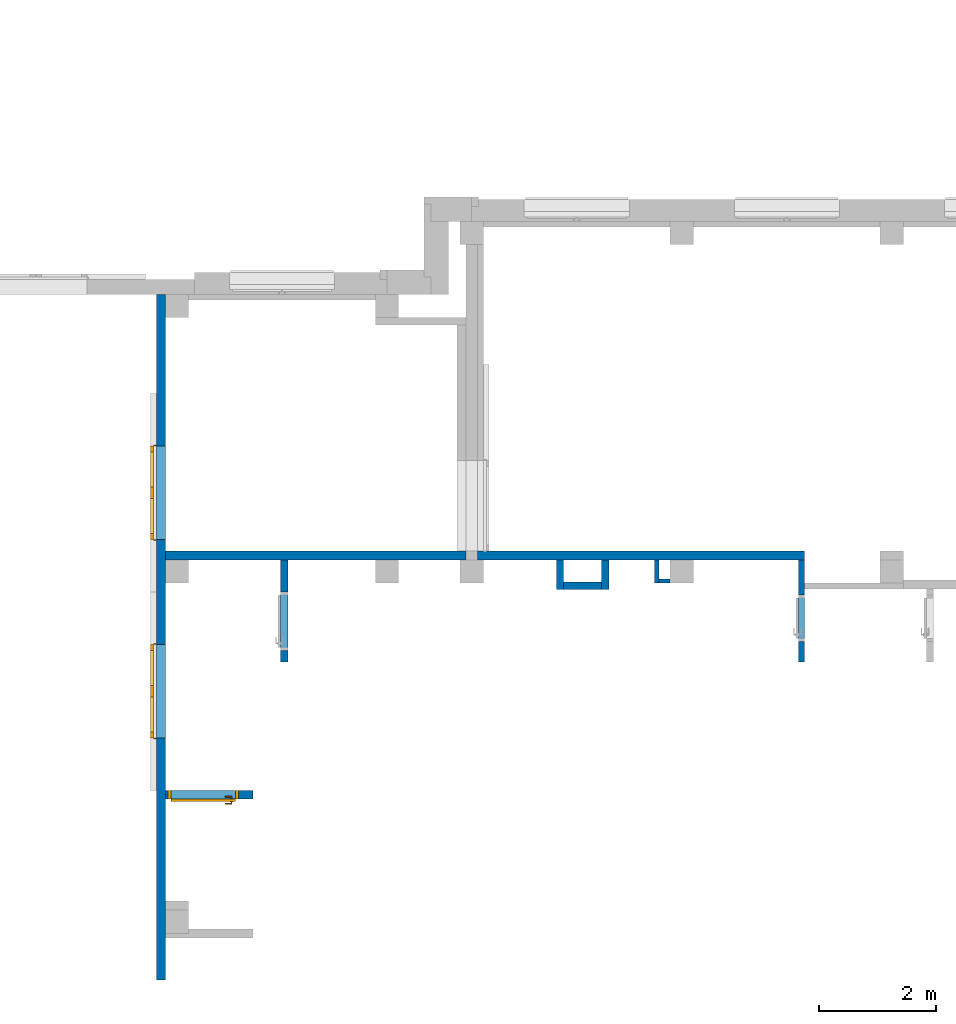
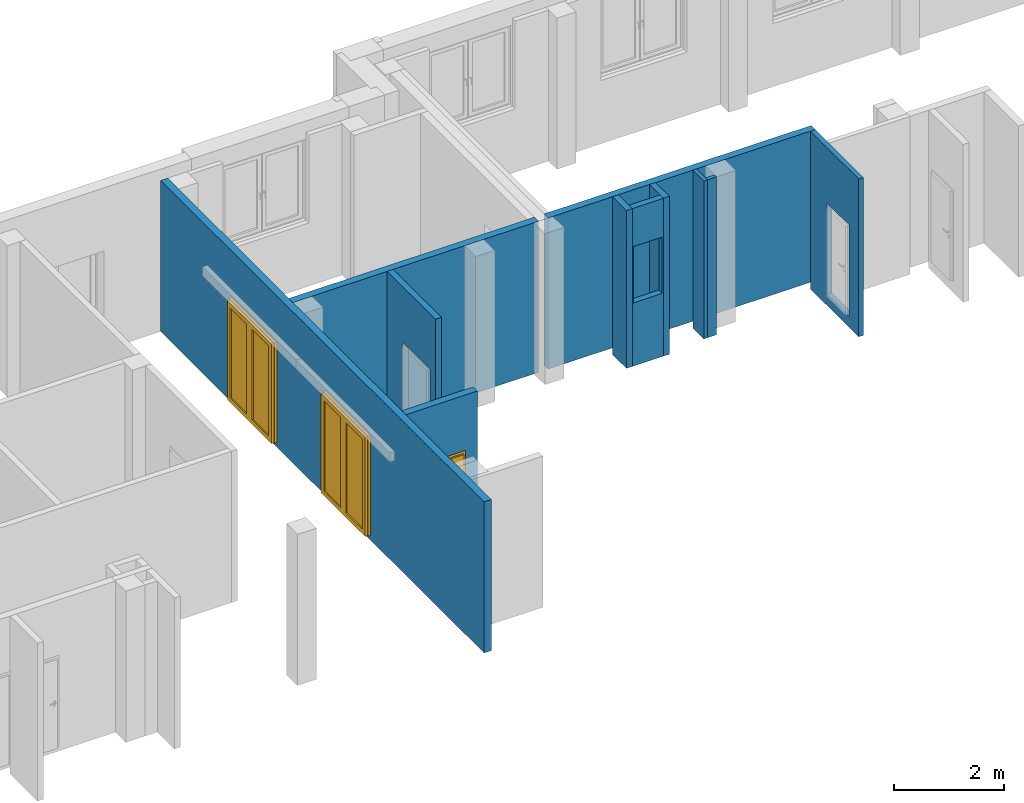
# One storey, part 20 of 37: 11 walls, 3 doors, 6 openings.
"""IFC4 building model written with IfcOpenShell, lengths in metres."""

from ifc_helpers import new_model, entity, si_unit, converted_unit, derived_unit, frame, frame_2d, origin, origin_with_axes, place, context, subcontext, project, spatial, polyline, rectangle, outline, extrude, closed_shell, open_shell, surface_model, source, transform, mapped, material, layer, layer_set, layer_usage, type_object, element, fill, save


model = new_model("IFC4")

# Units and contexts
model_context = context("Model", 3, precision=1e-05, world=origin())
body_context = subcontext(model_context, "Body", "Model", "MODEL_VIEW")
ifc_project = project(units=[si_unit("LENGTHUNIT", "METRE"), si_unit("AREAUNIT", "SQUARE_METRE"), si_unit("VOLUMEUNIT", "CUBIC_METRE"), si_unit("MASSUNIT", "GRAM", prefix="KILO"), converted_unit("PLANEANGLEUNIT", "DEGREE", entity("IfcPlaneAngleMeasure", 0.0174532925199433), si_unit("PLANEANGLEUNIT", "RADIAN"), dimensions=[0, 0, 0, 0, 0, 0, 0]), derived_unit("THERMALTRANSMITTANCEUNIT", [(si_unit("POWERUNIT", "WATT"), 1), (si_unit("THERMODYNAMICTEMPERATUREUNIT", "KELVIN"), -1), (si_unit("LENGTHUNIT", "METRE"), -2)]), derived_unit("VOLUMETRICFLOWRATEUNIT", [(si_unit("LENGTHUNIT", "METRE"), 3), (converted_unit("TIMEUNIT", "hour", entity("IfcTimeMeasure", 3600.0), si_unit("TIMEUNIT", "SECOND"), dimensions=[0, 0, 1, 0, 0, 0, 0]), -1), (si_unit("LENGTHUNIT", "METRE"), -1)])], contexts=[model_context])

# Site, building, storey
site_placement = place(None, origin())
site = spatial("IfcSite", under=ifc_project, at=site_placement, Name="3. ASŘ", CompositionType="ELEMENT")
building_placement = place(site_placement, origin())
building = spatial("IfcBuilding", under=site, at=building_placement, Name="Pavilon B", CompositionType="ELEMENT")
storey_placement = place(building_placement, origin())
storey = spatial("IfcBuildingStorey", under=building, at=storey_placement, Name="Půdorys 1.NP", CompositionType="ELEMENT", Elevation=0.0)

# Wall, openings, doors
ifc_material_1 = material(Name="YTONG 150")
ifc_layer_1 = layer(ifc_material_1, 0.15)
ifc_layer_set_1 = layer_set([ifc_layer_1])
ifc_layer_usage_1 = layer_usage(ifc_layer_set_1, "AXIS2", "POSITIVE", 0.0)
wall_1_placement = place(storey_placement, frame((43.85, -28.6, -0.1), z_axis=(0.0, 0.0, 1.0), x_axis=(0.0, 1.0, 0.0)))
wall_1 = element("IfcWall", 1, at=wall_1_placement, inside=storey, material=ifc_layer_usage_1, Name="YTONG 150", context=body_context, shape_type="SweptSolid", body=[
    extrude(rectangle(XDim=11.75, YDim=0.15, at=frame_2d((5.875, 0.075), x_axis=(1.0, 0.0))), origin_with_axes(), (0.0, 0.0, 1.0), 3.35),
])
opening_1_placement = place(wall_1_placement, frame((9.15, 0.15, 0.1), z_axis=(0.0, -1.0, 0.0), x_axis=(0.0, 0.0, 1.0)))
opening_1 = element("IfcOpeningElement", 2, at=opening_1_placement, cuts=wall_1, Name="Dveřní otvor", ObjectType="Opening", context=body_context, shape_type="SweptSolid", body=[
    extrude(outline(polyline([(0.0, 1.6), (2.2, 1.6), (2.2, 0.0), (0.0, 0.0), (0.0, 1.6)])), origin_with_axes(), (0.0, 0.0, 1.0), 0.15),
])
opening_2_placement = place(wall_1_placement, frame((5.75, 0.15, 0.1), z_axis=(0.0, -1.0, 0.0), x_axis=(0.0, 0.0, 1.0)))
opening_2 = element("IfcOpeningElement", 3, at=opening_2_placement, cuts=wall_1, Name="Dveřní otvor", ObjectType="Opening", context=body_context, shape_type="SweptSolid", body=[
    extrude(outline(polyline([(0.0, 1.6), (2.2, 1.6), (2.2, 0.0), (0.0, 0.0), (0.0, 1.6)])), origin_with_axes(), (0.0, 0.0, 1.0), 0.15),
])
door_type_1 = type_object("IfcDoorType", Name="D401", OperationType="NOTDEFINED", ParameterTakesPrecedence=False, PredefinedType="DOOR")
shared_shape_1 = source(origin_with_axes(), body_context, "Body", "SurfaceModel", [
    surface_model("IfcShellBasedSurfaceModel", [(0.0, 0.0500000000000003, 2.22), (0.0, 0.05, 1.11492377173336e-17), (0.02, 0.05, 1.11492377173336e-17), (0.02, 0.0500000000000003, 2.22), (0.0, 0.0, 1.72724717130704e-17), (0.0, 2.70006239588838e-16, 2.22), (0.02, 2.70006239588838e-16, 2.22), (0.02, 0.0, 1.72724717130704e-17)], [closed_shell([[[0, 1, 2, 3]], [[4, 5, 6, 7]], [[1, 0, 5, 4]], [[2, 1, 4, 7]], [[3, 2, 7, 6]], [[0, 3, 6, 5]]], orient=[[False], [False], [False], [False], [False], [False]])]),
    surface_model("IfcShellBasedSurfaceModel", [(1.62, 0.0500000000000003, 2.22), (1.62, 0.05, 1.11492377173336e-17), (1.64, 0.05, 1.11492377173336e-17), (1.64, 0.0500000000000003, 2.22), (1.62, 0.0, 1.72724717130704e-17), (1.62, 2.70006239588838e-16, 2.22), (1.64, 2.70006239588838e-16, 2.22), (1.64, 0.0, 1.72724717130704e-17)], [closed_shell([[[0, 1, 2, 3]], [[4, 5, 6, 7]], [[1, 0, 5, 4]], [[2, 1, 4, 7]], [[3, 2, 7, 6]], [[0, 3, 6, 5]]], orient=[[False], [False], [False], [False], [False], [False]])]),
    surface_model("IfcShellBasedSurfaceModel", [(0.02, 0.0500000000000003, 2.22), (0.02, 0.0500000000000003, 2.2), (1.62, 0.0500000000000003, 2.2), (1.62, 0.0500000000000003, 2.22), (0.02, 2.70006239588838e-16, 2.2), (0.02, 2.70006239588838e-16, 2.22), (1.62, 2.70006239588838e-16, 2.22), (1.62, 2.70006239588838e-16, 2.2)], [closed_shell([[[0, 1, 2, 3]], [[4, 5, 6, 7]], [[1, 0, 5, 4]], [[2, 1, 4, 7]], [[3, 2, 7, 6]], [[0, 3, 6, 5]]], orient=[[False], [False], [False], [False], [False], [False]])]),
    surface_model("IfcShellBasedSurfaceModel", [(0.02, 0.1, 2.2), (0.02, 0.1, 5.02600372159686e-18), (0.12, 0.1, 5.02600372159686e-18), (0.12, 0.1, 2.2), (0.02, 0.05, 1.11492377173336e-17), (0.02, 0.0500000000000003, 2.2), (0.12, 0.0500000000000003, 2.2), (0.12, 0.05, 1.11492377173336e-17)], [closed_shell([[[0, 1, 2, 3]], [[4, 5, 6, 7]], [[1, 0, 5, 4]], [[2, 1, 4, 7]], [[3, 2, 7, 6]], [[0, 3, 6, 5]]], orient=[[False], [False], [False], [False], [False], [False]])]),
    surface_model("IfcShellBasedSurfaceModel", [(0.7195, 0.1, 2.2), (0.7195, 0.1, 5.02600372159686e-18), (0.8195, 0.1, 5.02600372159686e-18), (0.8195, 0.1, 2.2), (0.7195, 0.05, 1.11492377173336e-17), (0.7195, 0.0500000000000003, 2.2), (0.8195, 0.0500000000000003, 2.2), (0.8195, 0.05, 1.11492377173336e-17)], [closed_shell([[[0, 1, 2, 3]], [[4, 5, 6, 7]], [[1, 0, 5, 4]], [[2, 1, 4, 7]], [[3, 2, 7, 6]], [[0, 3, 6, 5]]], orient=[[False], [False], [False], [False], [False], [False]])]),
    surface_model("IfcShellBasedSurfaceModel", [(0.12, 0.1, 0.1), (0.12, 0.1, 5.02600372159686e-18), (0.7195, 0.1, 5.02600372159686e-18), (0.7195, 0.1, 0.1), (0.12, 0.05, 1.11492377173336e-17), (0.12, 0.05, 0.1), (0.7195, 0.05, 0.1), (0.7195, 0.05, 1.11492377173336e-17)], [closed_shell([[[0, 1, 2, 3]], [[4, 5, 6, 7]], [[1, 0, 5, 4]], [[2, 1, 4, 7]], [[3, 2, 7, 6]], [[0, 3, 6, 5]]], orient=[[False], [False], [False], [False], [False], [False]])]),
    surface_model("IfcShellBasedSurfaceModel", [(0.12, 0.1, 2.2), (0.12, 0.1, 2.1), (0.7195, 0.1, 2.1), (0.7195, 0.1, 2.2), (0.12, 0.0500000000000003, 2.1), (0.12, 0.0500000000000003, 2.2), (0.7195, 0.0500000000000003, 2.2), (0.7195, 0.0500000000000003, 2.1)], [closed_shell([[[0, 1, 2, 3]], [[4, 5, 6, 7]], [[1, 0, 5, 4]], [[2, 1, 4, 7]], [[3, 2, 7, 6]], [[0, 3, 6, 5]]], orient=[[False], [False], [False], [False], [False], [False]])]),
    surface_model("IfcShellBasedSurfaceModel", [(0.8205, 0.1, 2.2), (0.8205, 0.1, 5.02600372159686e-18), (0.9205, 0.1, 5.02600372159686e-18), (0.9205, 0.1, 2.2), (0.8205, 0.05, 1.11492377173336e-17), (0.8205, 0.0500000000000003, 2.2), (0.9205, 0.0500000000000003, 2.2), (0.9205, 0.05, 1.11492377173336e-17)], [closed_shell([[[0, 1, 2, 3]], [[4, 5, 6, 7]], [[1, 0, 5, 4]], [[2, 1, 4, 7]], [[3, 2, 7, 6]], [[0, 3, 6, 5]]], orient=[[False], [False], [False], [False], [False], [False]])]),
    surface_model("IfcShellBasedSurfaceModel", [(1.52, 0.1, 2.2), (1.52, 0.1, 5.02600372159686e-18), (1.62, 0.1, 5.02600372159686e-18), (1.62, 0.1, 2.2), (1.52, 0.05, 1.11492377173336e-17), (1.52, 0.0500000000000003, 2.2), (1.62, 0.0500000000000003, 2.2), (1.62, 0.05, 1.11492377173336e-17)], [closed_shell([[[0, 1, 2, 3]], [[4, 5, 6, 7]], [[1, 0, 5, 4]], [[2, 1, 4, 7]], [[3, 2, 7, 6]], [[0, 3, 6, 5]]], orient=[[False], [False], [False], [False], [False], [False]])]),
    surface_model("IfcShellBasedSurfaceModel", [(0.9205, 0.1, 0.1), (0.9205, 0.1, 5.02600372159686e-18), (1.52, 0.1, 5.02600372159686e-18), (1.52, 0.1, 0.1), (0.9205, 0.05, 1.11492377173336e-17), (0.9205, 0.05, 0.1), (1.52, 0.05, 0.1), (1.52, 0.05, 1.11492377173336e-17)], [closed_shell([[[0, 1, 2, 3]], [[4, 5, 6, 7]], [[1, 0, 5, 4]], [[2, 1, 4, 7]], [[3, 2, 7, 6]], [[0, 3, 6, 5]]], orient=[[False], [False], [False], [False], [False], [False]])]),
    surface_model("IfcShellBasedSurfaceModel", [(0.9205, 0.1, 2.2), (0.9205, 0.1, 2.1), (1.52, 0.1, 2.1), (1.52, 0.1, 2.2), (0.9205, 0.0500000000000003, 2.1), (0.9205, 0.0500000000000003, 2.2), (1.52, 0.0500000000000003, 2.2), (1.52, 0.0500000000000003, 2.1)], [closed_shell([[[0, 1, 2, 3]], [[4, 5, 6, 7]], [[1, 0, 5, 4]], [[2, 1, 4, 7]], [[3, 2, 7, 6]], [[0, 3, 6, 5]]], orient=[[False], [False], [False], [False], [False], [False]])]),
    surface_model("IfcShellBasedSurfaceModel", [(0.9205, 0.075, 0.1), (1.52, 0.075, 0.1), (1.52, 0.0750000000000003, 2.1), (0.9205, 0.0750000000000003, 2.1)], [open_shell([[[0, 1, 2, 3]]], orient=[[False]])]),
    surface_model("IfcShellBasedSurfaceModel", [(0.12, 0.075, 0.1), (0.7195, 0.075, 0.1), (0.7195, 0.0750000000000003, 2.1), (0.12, 0.0750000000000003, 2.1)], [open_shell([[[0, 1, 2, 3]]], orient=[[False]])]),
])
door_1_placement = place(opening_1_placement, frame((0.0, -0.0200000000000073, -1.45519152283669e-14), z_axis=(1.0, 0.0, 0.0), x_axis=(0.0, 1.0, -1.22464679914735e-16)))
door_1 = element("IfcDoor", 4, at=door_1_placement, inside=storey, type_object=door_type_1, Name="D401", OverallHeight=2.24, OverallWidth=1.68, context=body_context, shape_type="MappedRepresentation", body=[
    mapped(shared_shape_1, transform((0.0, 0.0, 0.0), x_axis=(1.0, 0.0, 0.0), y_axis=(0.0, -1.0, 0.0), z_axis=(0.0, 0.0, 1.0), scale=1.0)),
])
fill(opening_1, door_1)
door_type_2 = type_object("IfcDoorType", Name="D401", OperationType="NOTDEFINED", ParameterTakesPrecedence=False, PredefinedType="DOOR")
door_2_placement = place(opening_2_placement, frame((0.0, -0.0200000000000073, -1.45519152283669e-14), z_axis=(1.0, 0.0, 0.0), x_axis=(0.0, 1.0, -1.22464679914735e-16)))
door_2 = element("IfcDoor", 5, at=door_2_placement, inside=storey, type_object=door_type_2, Name="D401", OverallHeight=2.24, OverallWidth=1.68, context=body_context, shape_type="MappedRepresentation", body=[
    mapped(shared_shape_1, transform((0.0, 0.0, 0.0), x_axis=(1.0, 0.0, 0.0), y_axis=(0.0, -1.0, 0.0), z_axis=(0.0, 0.0, 1.0), scale=1.0)),
])
fill(opening_2, door_2)

# Walls
ifc_material_2 = material(Name="YTONG 150")
ifc_layer_2 = layer(ifc_material_2, 0.15)
ifc_layer_set_2 = layer_set([ifc_layer_2])
ifc_layer_usage_2 = layer_usage(ifc_layer_set_2, "AXIS2", "POSITIVE", 0.0)
wall_2_placement = place(storey_placement, frame((43.85, -21.4, -0.1)))
element("IfcWall", 6, at=wall_2_placement, inside=storey, material=ifc_layer_usage_2, Name="YTONG 150", context=body_context, shape_type="SweptSolid", body=[
    extrude(rectangle(XDim=5.15, YDim=0.15, at=frame_2d((2.575, 0.075), x_axis=(1.0, 0.0))), origin_with_axes(), (0.0, 0.0, 1.0), 3.35),
])
ifc_material_3 = material(Name="YTONG 150")
ifc_layer_3 = layer(ifc_material_3, 0.15)
ifc_layer_set_3 = layer_set([ifc_layer_3])
ifc_layer_usage_3 = layer_usage(ifc_layer_set_3, "AXIS2", "POSITIVE", 0.0)
wall_3_placement = place(storey_placement, frame((49.2, -21.4, -0.1)))
element("IfcWall", 7, at=wall_3_placement, inside=storey, material=ifc_layer_usage_3, Name="YTONG 150", context=body_context, shape_type="SweptSolid", body=[
    extrude(rectangle(XDim=5.6, YDim=0.15, at=frame_2d((2.8, 0.075), x_axis=(1.0, 0.0))), origin_with_axes(), (0.0, 0.0, 1.0), 3.35),
])
ifc_material_4 = material(Name="YTONG 75")
ifc_layer_4 = layer(ifc_material_4, 0.0749999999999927)
ifc_layer_set_4 = layer_set([ifc_layer_4])
ifc_layer_usage_4 = layer_usage(ifc_layer_set_4, "AXIS2", "POSITIVE", 0.0)
wall_4_placement = place(storey_placement, frame((52.31, -21.8, -0.25), z_axis=(0.0, 0.0, 1.0), x_axis=(0.0, 1.0, 0.0)))
element("IfcWall", 8, at=wall_4_placement, inside=storey, material=ifc_layer_usage_4, Name="YTONG 75", context=body_context, shape_type="SweptSolid", body=[
    extrude(rectangle(XDim=0.4, YDim=0.0749999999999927, at=frame_2d((0.2, 0.0374999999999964), x_axis=(1.0, 0.0))), origin_with_axes(), (0.0, 0.0, 1.0), 3.5),
])
ifc_material_5 = material(Name="YTONG 75")
ifc_layer_5 = layer(ifc_material_5, 0.0749999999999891)
ifc_layer_set_5 = layer_set([ifc_layer_5])
ifc_layer_usage_5 = layer_usage(ifc_layer_set_5, "AXIS2", "POSITIVE", 0.0)
wall_5_placement = place(storey_placement, frame((52.5, -21.725, -0.25), z_axis=(0.0, 0.0, 1.0), x_axis=(-1.0, 0.0, 0.0)))
element("IfcWall", 9, at=wall_5_placement, inside=storey, material=ifc_layer_usage_5, Name="YTONG 75", context=body_context, shape_type="SweptSolid", body=[
    extrude(rectangle(XDim=0.19, YDim=0.0749999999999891, at=frame_2d((0.095, 0.0374999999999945), x_axis=(1.0, 0.0))), origin_with_axes(), (0.0, 0.0, 1.0), 3.5),
])
ifc_material_6 = material(Name="YTONG 125")
ifc_layer_6 = layer(ifc_material_6, 0.125)
ifc_layer_set_6 = layer_set([ifc_layer_6])
ifc_layer_usage_6 = layer_usage(ifc_layer_set_6, "AXIS2", "POSITIVE", 0.0)
wall_6_placement = place(storey_placement, frame((51.45, -21.905, -0.25), z_axis=(0.0, 0.0, 1.0), x_axis=(0.0, 1.0, 0.0)))
element("IfcWall", 10, at=wall_6_placement, inside=storey, material=ifc_layer_usage_6, Name="YTONG 125", context=body_context, shape_type="SweptSolid", body=[
    extrude(rectangle(XDim=0.505, YDim=0.125, at=frame_2d((0.2525, 0.0625), x_axis=(1.0, 0.0))), origin_with_axes(), (0.0, 0.0, 1.0), 3.5),
])
ifc_material_7 = material(Name="YTONG 125")
ifc_layer_7 = layer(ifc_material_7, 0.125)
ifc_layer_set_7 = layer_set([ifc_layer_7])
ifc_layer_usage_7 = layer_usage(ifc_layer_set_7, "AXIS2", "POSITIVE", 0.0)
wall_7_placement = place(storey_placement, frame((50.675, -21.905, -0.25), z_axis=(0.0, 0.0, 1.0), x_axis=(0.0, 1.0, 0.0)))
element("IfcWall", 11, at=wall_7_placement, inside=storey, material=ifc_layer_usage_7, Name="YTONG 125", context=body_context, shape_type="SweptSolid", body=[
    extrude(rectangle(XDim=0.505, YDim=0.125, at=frame_2d((0.2525, 0.0625), x_axis=(1.0, 0.0))), origin_with_axes(), (0.0, 0.0, 1.0), 3.5),
])

# Wall, opening
ifc_material_8 = material(Name="YTONG 125")
ifc_layer_8 = layer(ifc_material_8, 0.125)
ifc_layer_set_8 = layer_set([ifc_layer_8])
ifc_layer_usage_8 = layer_usage(ifc_layer_set_8, "AXIS2", "POSITIVE", 0.0)
wall_8_placement = place(storey_placement, frame((51.325, -21.78, -0.25), z_axis=(0.0, 0.0, 1.0), x_axis=(-1.0, 0.0, 0.0)))
wall_8 = element("IfcWall", 12, at=wall_8_placement, inside=storey, material=ifc_layer_usage_8, Name="YTONG 125", context=body_context, shape_type="SweptSolid", body=[
    extrude(rectangle(XDim=0.65, YDim=0.125, at=frame_2d((0.325, 0.0625), x_axis=(1.0, 0.0))), origin_with_axes(), (0.0, 0.0, 1.0), 3.5),
])
opening_3_placement = place(wall_8_placement, frame((0.625, 0.125, 1.4), z_axis=(0.0, -1.0, 0.0), x_axis=(0.0, 0.0, 1.0)))
element("IfcOpeningElement", 13, at=opening_3_placement, cuts=wall_8, Name="Okenní otvor", ObjectType="Opening", context=body_context, shape_type="SweptSolid", body=[
    extrude(outline(polyline([(0.0, 0.6), (1.25, 0.6), (1.25, 0.0), (0.0, 0.0), (0.0, 0.6)])), origin_with_axes(), (0.0, 0.0, 1.0), 0.125),
])

ifc_material_9 = material(Name="YTONG 100")
ifc_layer_9 = layer(ifc_material_9, 0.1)
ifc_layer_set_9 = layer_set([ifc_layer_9])
ifc_layer_usage_9 = layer_usage(ifc_layer_set_9, "AXIS2", "POSITIVE", 0.0)
wall_9_placement = place(storey_placement, frame((54.8, -23.15, -0.25), z_axis=(0.0, 0.0, 1.0), x_axis=(0.0, 1.0, 0.0)))
wall_9 = element("IfcWall", 14, at=wall_9_placement, inside=storey, material=ifc_layer_usage_9, Name="YTONG 100", context=body_context, shape_type="SweptSolid", body=[
    extrude(rectangle(XDim=1.75, YDim=0.1, at=frame_2d((0.875, 0.05), x_axis=(1.0, 0.0))), origin_with_axes(), (0.0, 0.0, 1.0), 3.5),
])
opening_4_placement = place(wall_9_placement, frame((0.350000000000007, 0.0, 0.25), z_axis=(0.0, 1.0, 0.0), x_axis=(0.0, 0.0, 1.0)))
element("IfcOpeningElement", 15, at=opening_4_placement, cuts=wall_9, Name="Dveřní otvor", ObjectType="Opening", context=body_context, shape_type="SweptSolid", body=[
    extrude(outline(polyline([(0.0, 0.8), (2.02, 0.8), (2.02, 0.0), (0.0, 0.0), (0.0, 0.8)])), origin_with_axes(), (0.0, 0.0, 1.0), 0.1),
])

ifc_material_10 = material(Name="YTONG 125")
ifc_layer_10 = layer(ifc_material_10, 0.125)
ifc_layer_set_10 = layer_set([ifc_layer_10])
ifc_layer_usage_10 = layer_usage(ifc_layer_set_10, "AXIS2", "POSITIVE", 0.0)
wall_10_placement = place(storey_placement, frame((45.825, -21.4, -0.25), z_axis=(0.0, 0.0, 1.0), x_axis=(0.0, -1.0, 0.0)))
wall_10 = element("IfcWall", 16, at=wall_10_placement, inside=storey, material=ifc_layer_usage_10, Name="YTONG 125", context=body_context, shape_type="SweptSolid", body=[
    extrude(rectangle(XDim=1.75, YDim=0.125, at=frame_2d((0.875, 0.0625), x_axis=(1.0, 0.0))), origin_with_axes(), (0.0, 0.0, 1.0), 3.5),
])
opening_5_placement = place(wall_10_placement, frame((1.55000000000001, 0.125, 0.25), z_axis=(0.0, -1.0, 0.0), x_axis=(0.0, 0.0, 1.0)))
element("IfcOpeningElement", 17, at=opening_5_placement, cuts=wall_10, Name="Dveřní otvor", ObjectType="Opening", context=body_context, shape_type="SweptSolid", body=[
    extrude(outline(polyline([(0.0, 1.0), (2.02, 1.0), (2.02, 0.0), (0.0, 0.0), (0.0, 1.0)])), origin_with_axes(), (0.0, 0.0, 1.0), 0.125),
])

# Wall, opening, door
ifc_material_11 = material(Name="YTONG 150")
ifc_layer_11 = layer(ifc_material_11, 0.15)
ifc_layer_set_11 = layer_set([ifc_layer_11])
ifc_layer_usage_11 = layer_usage(ifc_layer_set_11, "AXIS2", "POSITIVE", 0.0)
wall_11_placement = place(storey_placement, frame((43.85, -25.5, -0.1)))
wall_11 = element("IfcWall", 18, at=wall_11_placement, inside=storey, material=ifc_layer_usage_11, Name="YTONG 150", context=body_context, shape_type="SweptSolid", body=[
    extrude(rectangle(XDim=1.5, YDim=0.15, at=frame_2d((0.75, 0.075), x_axis=(1.0, 0.0))), origin_with_axes(), (0.0, 0.0, 1.0), 3.35),
])
opening_6_placement = place(wall_11_placement, frame((0.05, 0.0, 0.1), z_axis=(0.0, 1.0, 0.0), x_axis=(0.0, 0.0, 1.0)))
opening_6 = element("IfcOpeningElement", 19, at=opening_6_placement, cuts=wall_11, Name="Dveřní otvor", ObjectType="Opening", context=body_context, shape_type="SweptSolid", body=[
    extrude(outline(polyline([(0.0, 1.2), (2.02, 1.2), (2.02, 0.0), (0.0, 0.0), (0.0, 1.2)])), origin_with_axes(), (0.0, 0.0, 1.0), 0.15),
])
door_type_3 = type_object("IfcDoorType", Name="D101", OperationType="NOTDEFINED", ParameterTakesPrecedence=False, PredefinedType="DOOR")
shared_shape_2 = source(origin_with_axes(), body_context, "Body", "SurfaceModel", [
    surface_model("IfcShellBasedSurfaceModel", [(0.0, 0.15, 2.02), (0.0, 0.15, -9.18485099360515e-18), (0.05, 0.15, -9.18485099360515e-18), (0.05, 0.15, 2.02), (0.0, 0.0, 9.18485099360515e-18), (0.0, 2.55795384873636e-16, 2.02), (0.05, 2.55795384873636e-16, 2.02), (0.05, 0.0, 9.18485099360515e-18)], [closed_shell([[[0, 1, 2, 3]], [[4, 5, 6, 7]], [[1, 0, 5, 4]], [[2, 1, 4, 7]], [[3, 2, 7, 6]], [[0, 3, 6, 5]]], orient=[[False], [False], [False], [False], [False], [False]])]),
    surface_model("IfcShellBasedSurfaceModel", [(1.15, 0.15, 2.02), (1.15, 0.15, -9.18485099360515e-18), (1.2, 0.15, -9.18485099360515e-18), (1.2, 0.15, 2.02), (1.15, 0.0, 9.18485099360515e-18), (1.15, 2.55795384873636e-16, 2.02), (1.2, 2.55795384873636e-16, 2.02), (1.2, 0.0, 9.18485099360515e-18)], [closed_shell([[[0, 1, 2, 3]], [[4, 5, 6, 7]], [[1, 0, 5, 4]], [[2, 1, 4, 7]], [[3, 2, 7, 6]], [[0, 3, 6, 5]]], orient=[[False], [False], [False], [False], [False], [False]])]),
    surface_model("IfcShellBasedSurfaceModel", [(0.05, 0.15, 2.02), (0.05, 0.15, 1.97), (1.15, 0.15, 1.97), (1.15, 0.15, 2.02), (0.05, 2.27373675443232e-16, 1.97), (0.05, 2.27373675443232e-16, 2.02), (1.15, 2.27373675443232e-16, 2.02), (1.15, 2.27373675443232e-16, 1.97)], [closed_shell([[[0, 1, 2, 3]], [[4, 5, 6, 7]], [[1, 0, 5, 4]], [[2, 1, 4, 7]], [[3, 2, 7, 6]], [[0, 3, 6, 5]]], orient=[[False], [False], [False], [False], [False], [False]])]),
    surface_model("IfcShellBasedSurfaceModel", [(0.05, 0.19, 1.97), (0.05, 0.19, -1.40834381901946e-17), (1.15, 0.19, -1.40834381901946e-17), (1.15, 0.19, 1.97), (0.05, 0.15, -9.18485099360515e-18), (0.05, 0.15, 1.97), (1.15, 0.15, 1.97), (1.15, 0.15, -9.18485099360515e-18)], [closed_shell([[[0, 1, 2, 3]], [[4, 5, 6, 7]], [[1, 0, 5, 4]], [[2, 1, 4, 7]], [[3, 2, 7, 6]], [[0, 3, 6, 5]]], orient=[[False], [False], [False], [False], [False], [False]])]),
    surface_model("IfcShellBasedSurfaceModel", [(1.10881569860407, 0.15, 0.93625), (1.1125, 0.15, 0.95), (1.10881569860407, 0.15, 0.96375), (1.09875, 0.15, 0.973815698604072), (1.085, 0.15, 0.9775), (1.07125, 0.15, 0.973815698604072), (1.06118430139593, 0.15, 0.96375), (1.0575, 0.15, 0.95), (1.06118430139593, 0.15, 0.93625), (1.07125, 0.15, 0.926184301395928), (1.085, 0.15, 0.9225), (1.09875, 0.15, 0.926184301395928), (1.1125, 0.1375, 0.95), (1.10881569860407, 0.1375, 0.93625), (1.09875, 0.1375, 0.926184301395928), (1.085, 0.1375, 0.9225), (1.07125, 0.1375, 0.926184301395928), (1.06118430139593, 0.1375, 0.93625), (1.0575, 0.1375, 0.95), (1.06118430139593, 0.1375, 0.96375), (1.07125, 0.1375, 0.973815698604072), (1.085, 0.1375, 0.9775), (1.09875, 0.1375, 0.973815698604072), (1.10881569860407, 0.1375, 0.96375)], [closed_shell([[[0, 1, 2, 3, 4, 5, 6, 7, 8, 9, 10, 11]], [[12, 13, 14, 15, 16, 17, 18, 19, 20, 21, 22, 23]], [[1, 0, 13, 12]], [[2, 1, 12, 23]], [[3, 2, 23, 22]], [[4, 3, 22, 21]], [[5, 4, 21, 20]], [[6, 5, 20, 19]], [[7, 6, 19, 18]], [[8, 7, 18, 17]], [[9, 8, 17, 16]], [[10, 9, 16, 15]], [[11, 10, 15, 14]], [[0, 11, 14, 13]]], orient=[[False], [False], [False], [False], [False], [False], [False], [False], [False], [False], [False], [False], [False], [False]])]),
    surface_model("IfcShellBasedSurfaceModel", [(1.10881569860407, 0.15, 1.03625), (1.1125, 0.15, 1.05), (1.10881569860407, 0.15, 1.06375), (1.09875, 0.15, 1.07381569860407), (1.085, 0.15, 1.0775), (1.07125, 0.15, 1.07381569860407), (1.06118430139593, 0.15, 1.06375), (1.0575, 0.15, 1.05), (1.06118430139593, 0.15, 1.03625), (1.07125, 0.15, 1.02618430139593), (1.085, 0.15, 1.0225), (1.09875, 0.15, 1.02618430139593), (1.1125, 0.1375, 1.05), (1.10881569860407, 0.1375, 1.03625), (1.09875, 0.1375, 1.02618430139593), (1.085, 0.1375, 1.0225), (1.07125, 0.1375, 1.02618430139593), (1.06118430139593, 0.1375, 1.03625), (1.0575, 0.1375, 1.05), (1.06118430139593, 0.1375, 1.06375), (1.07125, 0.1375, 1.07381569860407), (1.085, 0.1375, 1.0775), (1.09875, 0.1375, 1.07381569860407), (1.10881569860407, 0.1375, 1.06375)], [closed_shell([[[0, 1, 2, 3, 4, 5, 6, 7, 8, 9, 10, 11]], [[12, 13, 14, 15, 16, 17, 18, 19, 20, 21, 22, 23]], [[1, 0, 13, 12]], [[2, 1, 12, 23]], [[3, 2, 23, 22]], [[4, 3, 22, 21]], [[5, 4, 21, 20]], [[6, 5, 20, 19]], [[7, 6, 19, 18]], [[8, 7, 18, 17]], [[9, 8, 17, 16]], [[10, 9, 16, 15]], [[11, 10, 15, 14]], [[0, 11, 14, 13]]], orient=[[False], [False], [False], [False], [False], [False], [False], [False], [False], [False], [False], [False], [False], [False]])]),
    surface_model("IfcShellBasedSurfaceModel", [(1.085, 0.15, 1.06), (1.08, 0.15, 1.05866025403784), (1.07633974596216, 0.15, 1.055), (1.075, 0.15, 1.05), (1.07633974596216, 0.15, 1.045), (1.08, 0.15, 1.04133974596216), (1.085, 0.15, 1.04), (1.09, 0.15, 1.04133974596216), (1.09366025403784, 0.15, 1.045), (1.095, 0.15, 1.05), (1.09366025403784, 0.15, 1.055), (1.09, 0.15, 1.05866025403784), (1.09, 0.105, 1.05866025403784), (1.085, 0.11, 1.06), (1.09366025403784, 0.101339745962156, 1.055), (1.095, 0.1, 1.05), (1.09366025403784, 0.101339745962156, 1.045), (1.09, 0.105, 1.04133974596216), (1.085, 0.11, 1.04), (1.08, 0.115, 1.04133974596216), (1.07633974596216, 0.118660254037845, 1.045), (1.075, 0.12, 1.05), (1.07633974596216, 0.118660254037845, 1.055), (1.08, 0.115, 1.05866025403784), (0.97, 0.105, 1.05866025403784), (0.97, 0.11, 1.06), (0.97, 0.101339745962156, 1.055), (0.97, 0.1, 1.05), (0.97, 0.101339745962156, 1.045), (0.97, 0.105, 1.04133974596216), (0.97, 0.11, 1.04), (0.97, 0.115, 1.04133974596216), (0.97, 0.118660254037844, 1.045), (0.97, 0.12, 1.05), (0.97, 0.118660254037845, 1.055), (0.97, 0.115, 1.05866025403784)], [open_shell([[[0, 1, 2, 3, 4, 5, 6, 7, 8, 9, 10, 11]], [[0, 11, 12, 13]], [[11, 10, 14, 12]], [[10, 9, 15, 14]], [[9, 8, 16, 15]], [[8, 7, 17, 16]], [[7, 6, 18, 17]], [[6, 5, 19, 18]], [[5, 4, 20, 19]], [[4, 3, 21, 20]], [[3, 2, 22, 21]], [[2, 1, 23, 22]], [[1, 0, 13, 23]], [[13, 12, 24, 25]], [[12, 14, 26, 24]], [[14, 15, 27, 26]], [[15, 16, 28, 27]], [[16, 17, 29, 28]], [[17, 18, 30, 29]], [[18, 19, 31, 30]], [[19, 20, 32, 31]], [[20, 21, 33, 32]], [[21, 22, 34, 33]], [[22, 23, 35, 34]], [[23, 13, 25, 35]]], orient=[[False], [False], [False], [False], [False], [False], [False], [False], [False], [False], [False], [False], [False], [False], [False], [False], [False], [False], [False], [False], [False], [False], [False], [False], [False]])]),
    surface_model("IfcShellBasedSurfaceModel", [(1.10881569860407, 0.19, 0.93625), (1.09875, 0.19, 0.926184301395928), (1.085, 0.19, 0.9225), (1.07125, 0.19, 0.926184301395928), (1.06118430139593, 0.19, 0.93625), (1.0575, 0.19, 0.95), (1.06118430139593, 0.19, 0.96375), (1.07125, 0.19, 0.973815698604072), (1.085, 0.19, 0.9775), (1.09875, 0.19, 0.973815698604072), (1.10881569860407, 0.19, 0.96375), (1.1125, 0.19, 0.95), (1.1125, 0.2025, 0.95), (1.10881569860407, 0.2025, 0.96375), (1.09875, 0.2025, 0.973815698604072), (1.085, 0.2025, 0.9775), (1.07125, 0.2025, 0.973815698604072), (1.06118430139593, 0.2025, 0.96375), (1.0575, 0.2025, 0.95), (1.06118430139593, 0.2025, 0.93625), (1.07125, 0.2025, 0.926184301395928), (1.085, 0.2025, 0.9225), (1.09875, 0.2025, 0.926184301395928), (1.10881569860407, 0.2025, 0.93625)], [closed_shell([[[0, 1, 2, 3, 4, 5, 6, 7, 8, 9, 10, 11]], [[12, 13, 14, 15, 16, 17, 18, 19, 20, 21, 22, 23]], [[11, 12, 23, 0]], [[10, 13, 12, 11]], [[9, 14, 13, 10]], [[8, 15, 14, 9]], [[7, 16, 15, 8]], [[6, 17, 16, 7]], [[5, 18, 17, 6]], [[4, 19, 18, 5]], [[3, 20, 19, 4]], [[2, 21, 20, 3]], [[1, 22, 21, 2]], [[0, 23, 22, 1]]], orient=[[False], [False], [False], [False], [False], [False], [False], [False], [False], [False], [False], [False], [False], [False]])]),
    surface_model("IfcShellBasedSurfaceModel", [(1.10881569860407, 0.19, 1.03625), (1.09875, 0.19, 1.02618430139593), (1.085, 0.19, 1.0225), (1.07125, 0.19, 1.02618430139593), (1.06118430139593, 0.19, 1.03625), (1.0575, 0.19, 1.05), (1.06118430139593, 0.19, 1.06375), (1.07125, 0.19, 1.07381569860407), (1.085, 0.19, 1.0775), (1.09875, 0.19, 1.07381569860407), (1.10881569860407, 0.19, 1.06375), (1.1125, 0.19, 1.05), (1.1125, 0.2025, 1.05), (1.10881569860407, 0.2025, 1.06375), (1.09875, 0.2025, 1.07381569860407), (1.085, 0.2025, 1.0775), (1.07125, 0.2025, 1.07381569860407), (1.06118430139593, 0.2025, 1.06375), (1.0575, 0.2025, 1.05), (1.06118430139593, 0.2025, 1.03625), (1.07125, 0.2025, 1.02618430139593), (1.085, 0.2025, 1.0225), (1.09875, 0.2025, 1.02618430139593), (1.10881569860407, 0.2025, 1.03625)], [closed_shell([[[0, 1, 2, 3, 4, 5, 6, 7, 8, 9, 10, 11]], [[12, 13, 14, 15, 16, 17, 18, 19, 20, 21, 22, 23]], [[11, 12, 23, 0]], [[10, 13, 12, 11]], [[9, 14, 13, 10]], [[8, 15, 14, 9]], [[7, 16, 15, 8]], [[6, 17, 16, 7]], [[5, 18, 17, 6]], [[4, 19, 18, 5]], [[3, 20, 19, 4]], [[2, 21, 20, 3]], [[1, 22, 21, 2]], [[0, 23, 22, 1]]], orient=[[False], [False], [False], [False], [False], [False], [False], [False], [False], [False], [False], [False], [False], [False]])]),
    surface_model("IfcShellBasedSurfaceModel", [(1.085, 0.19, 1.06), (1.09, 0.19, 1.05866025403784), (1.09366025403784, 0.19, 1.055), (1.095, 0.19, 1.05), (1.09366025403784, 0.19, 1.045), (1.09, 0.19, 1.04133974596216), (1.085, 0.19, 1.04), (1.08, 0.19, 1.04133974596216), (1.07633974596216, 0.19, 1.045), (1.075, 0.19, 1.05), (1.07633974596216, 0.19, 1.055), (1.08, 0.19, 1.05866025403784), (1.085, 0.23, 1.06), (1.09, 0.235, 1.05866025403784), (1.09366025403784, 0.238660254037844, 1.055), (1.095, 0.24, 1.05), (1.09366025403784, 0.238660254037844, 1.045), (1.09, 0.235, 1.04133974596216), (1.085, 0.23, 1.04), (1.08, 0.225, 1.04133974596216), (1.07633974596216, 0.221339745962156, 1.045), (1.075, 0.22, 1.05), (1.07633974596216, 0.221339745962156, 1.055), (1.08, 0.225, 1.05866025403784), (0.97, 0.23, 1.06), (0.97, 0.235, 1.05866025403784), (0.97, 0.238660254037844, 1.055), (0.97, 0.24, 1.05), (0.97, 0.238660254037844, 1.045), (0.97, 0.235, 1.04133974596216), (0.97, 0.23, 1.04), (0.97, 0.225, 1.04133974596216), (0.97, 0.221339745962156, 1.045), (0.97, 0.22, 1.05), (0.97, 0.221339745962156, 1.055), (0.97, 0.225, 1.05866025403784)], [open_shell([[[0, 1, 2, 3, 4, 5, 6, 7, 8, 9, 10, 11]], [[0, 12, 13, 1]], [[1, 13, 14, 2]], [[2, 14, 15, 3]], [[3, 15, 16, 4]], [[4, 16, 17, 5]], [[5, 17, 18, 6]], [[6, 18, 19, 7]], [[7, 19, 20, 8]], [[8, 20, 21, 9]], [[9, 21, 22, 10]], [[10, 22, 23, 11]], [[11, 23, 12, 0]], [[12, 24, 25, 13]], [[13, 25, 26, 14]], [[14, 26, 27, 15]], [[15, 27, 28, 16]], [[16, 28, 29, 17]], [[17, 29, 30, 18]], [[18, 30, 31, 19]], [[19, 31, 32, 20]], [[20, 32, 33, 21]], [[21, 33, 34, 22]], [[22, 34, 35, 23]], [[23, 35, 24, 12]]], orient=[[False], [False], [False], [False], [False], [False], [False], [False], [False], [False], [False], [False], [False], [False], [False], [False], [False], [False], [False], [False], [False], [False], [False], [False], [False]])]),
])
door_3_placement = place(opening_6_placement, frame((0.0, 0.0, 0.15), z_axis=(1.0, 0.0, 0.0), x_axis=(0.0, 1.0, -1.22464679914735e-16)))
door_3 = element("IfcDoor", 20, at=door_3_placement, inside=storey, type_object=door_type_3, Name="D101", OverallHeight=2.02, OverallWidth=1.2, context=body_context, shape_type="MappedRepresentation", body=[
    mapped(shared_shape_2, transform((0.0, 0.0, 0.0), x_axis=(1.0, 0.0, 0.0), y_axis=(0.0, -1.0, 0.0), z_axis=(0.0, 0.0, 1.0), scale=1.0)),
])
fill(opening_6, door_3)

save(model, "model.ifc")
